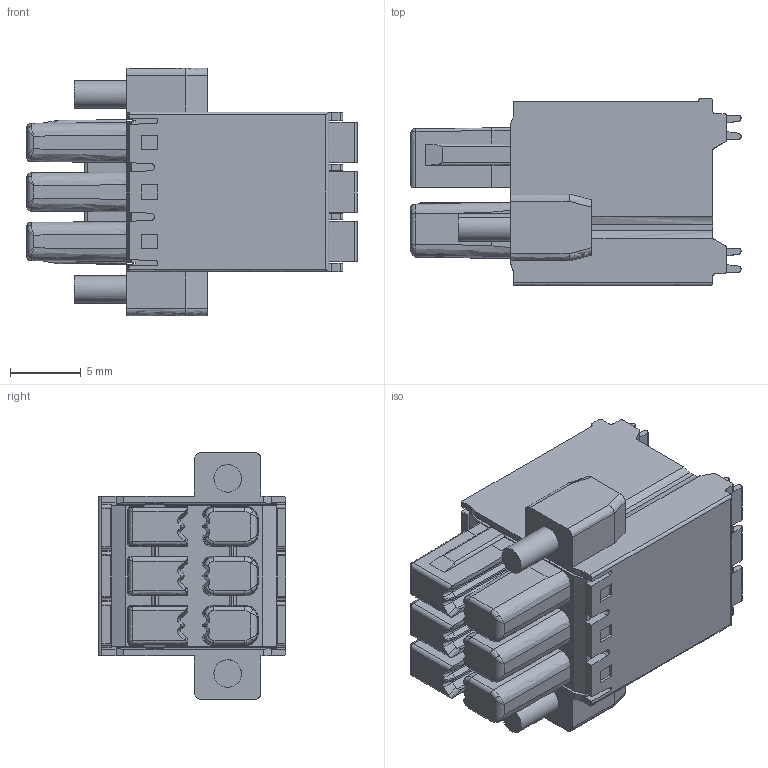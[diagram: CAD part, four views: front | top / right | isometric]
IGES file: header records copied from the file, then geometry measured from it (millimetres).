
Start section: ------------------------------------------------------------------------
Bounding box: 23.35 x 13.25 x 17.5 mm (x, y, z)
Volume: 2439 mm3; surface area: 2495.4 mm2
Topology: 1 solids, 1 shells, 669 faces, 1771 edges, 1117 vertices
Faces by surface type: bspline 669
